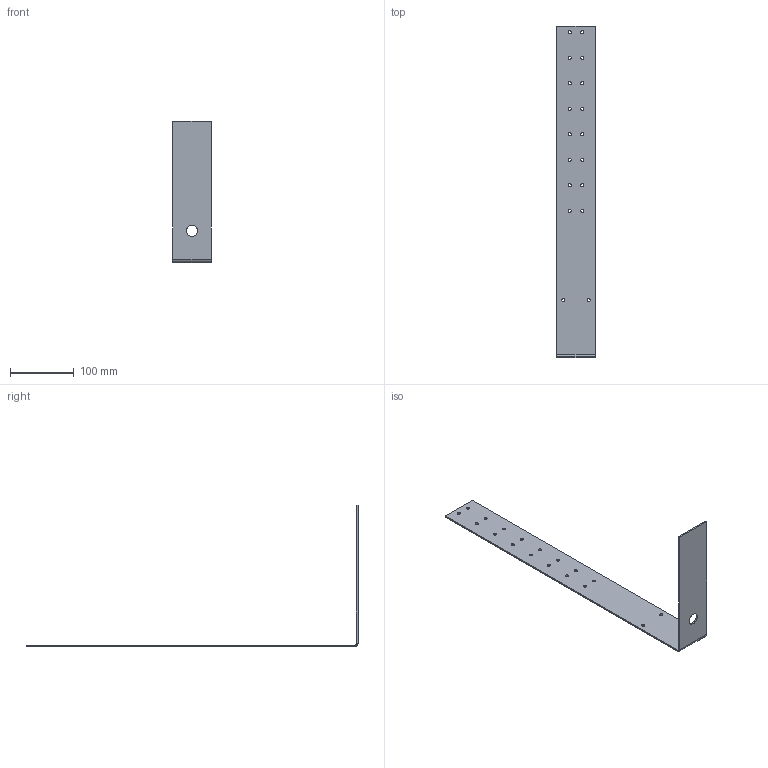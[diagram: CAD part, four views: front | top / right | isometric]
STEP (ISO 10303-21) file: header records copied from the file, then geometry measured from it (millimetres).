
FILE_DESCRIPTION (( 'STEP AP203' ), '1' );
FILE_NAME ('110430.STEP', '2021-03-15T15:00:11', ( '' ), ( '' ), 'SwSTEP 2.0', 'SolidWorks 2013', '' );
FILE_SCHEMA (( 'CONFIG_CONTROL_DESIGN' ));
Length unit declared in the file: millimetre
Products named in the file (1): 110430
Bounding box: 60 x 520.95 x 221.95 mm (x, y, z)
Volume: 109265.9 mm3; surface area: 92253.8 mm2
Topology: 1 solids, 1 shells, 52 faces, 142 edges, 92 vertices
Faces by surface type: cylinder 40, plane 12
Entity records: 1837 total; most frequent: DIRECTION 328, CARTESIAN_POINT 287, ORIENTED_EDGE 284, EDGE_CURVE 142, AXIS2_PLACEMENT_3D 133, VERTEX_POINT 92, EDGE_LOOP 90, CIRCLE 80
